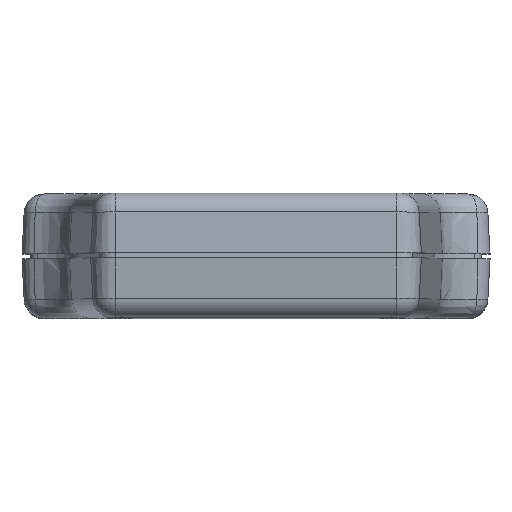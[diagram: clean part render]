
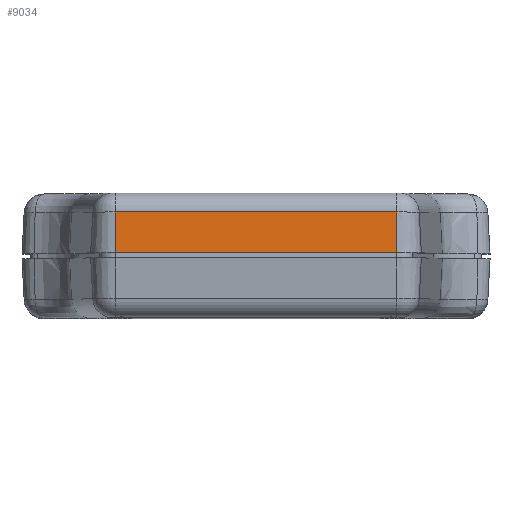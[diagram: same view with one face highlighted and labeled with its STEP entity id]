
A CAD part, top view. The second image highlights one B-rep face of the part: STEP entity #9034.
In plain terms, the highlighted planar face has unit normal (0, 0.052, 0.999).
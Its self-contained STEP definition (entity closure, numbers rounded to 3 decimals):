
#595 = EDGE_LOOP ( 'NONE', ( #5916, #8583, #2544, #14584 ) ) ;
#602 = CARTESIAN_POINT ( 'NONE',  ( 28.255, 0., 79.85 ) ) ;
#763 = LINE ( 'NONE', #7497, #2076 ) ;
#985 = DIRECTION ( 'NONE',  ( 0., -0.999, 0.052 ) ) ;
#987 = VECTOR ( 'NONE', #9965, 1000. ) ;
#1826 = AXIS2_PLACEMENT_3D ( 'NONE', #14559, #5601, #4338 ) ;
#2018 = DIRECTION ( 'NONE',  ( -1., 0., 0. ) ) ;
#2076 = VECTOR ( 'NONE', #985, 1000. ) ;
#2291 = VERTEX_POINT ( 'NONE', #3939 ) ;
#2544 = ORIENTED_EDGE ( 'NONE', *, *, #8074, .T. ) ;
#2930 = LINE ( 'NONE', #5398, #7339 ) ;
#3286 = VECTOR ( 'NONE', #7270, 1000. ) ;
#3939 = CARTESIAN_POINT ( 'NONE',  ( -28.255, 8.209, 79.42 ) ) ;
#4258 = CARTESIAN_POINT ( 'NONE',  ( 28.255, 8.209, 79.42 ) ) ;
#4338 = DIRECTION ( 'NONE',  ( 0., -0.999, 0.052 ) ) ;
#4345 = EDGE_CURVE ( 'NONE', #6752, #6822, #5403, .T. ) ;
#5398 = CARTESIAN_POINT ( 'NONE',  ( 28.255, 8.209, 79.42 ) ) ;
#5403 = LINE ( 'NONE', #602, #987 ) ;
#5601 = DIRECTION ( 'NONE',  ( 0., 0.052, 0.999 ) ) ;
#5916 = ORIENTED_EDGE ( 'NONE', *, *, #4345, .F. ) ;
#6024 = CARTESIAN_POINT ( 'NONE',  ( 28.255, 0., 79.85 ) ) ;
#6247 = EDGE_CURVE ( 'NONE', #12131, #6822, #12143, .T. ) ;
#6752 = VERTEX_POINT ( 'NONE', #4258 ) ;
#6822 = VERTEX_POINT ( 'NONE', #6024 ) ;
#7270 = DIRECTION ( 'NONE',  ( 1., 0., 0. ) ) ;
#7339 = VECTOR ( 'NONE', #2018, 1000. ) ;
#7497 = CARTESIAN_POINT ( 'NONE',  ( -28.255, 0., 79.85 ) ) ;
#8074 = EDGE_CURVE ( 'NONE', #2291, #12131, #763, .T. ) ;
#8413 = EDGE_CURVE ( 'NONE', #6752, #2291, #2930, .T. ) ;
#8583 = ORIENTED_EDGE ( 'NONE', *, *, #8413, .T. ) ;
#8729 = CARTESIAN_POINT ( 'NONE',  ( -28.255, 0., 79.85 ) ) ;
#9034 = ADVANCED_FACE ( 'NONE', ( #10316 ), #12555, .T. ) ;
#9965 = DIRECTION ( 'NONE',  ( 0., -0.999, 0.052 ) ) ;
#10316 = FACE_OUTER_BOUND ( 'NONE', #595, .T. ) ;
#12131 = VERTEX_POINT ( 'NONE', #8729 ) ;
#12143 = LINE ( 'NONE', #12959, #3286 ) ;
#12555 = PLANE ( 'NONE',  #1826 ) ;
#12959 = CARTESIAN_POINT ( 'NONE',  ( 28.255, 0., 79.85 ) ) ;
#14559 = CARTESIAN_POINT ( 'NONE',  ( 28.255, 0., 79.85 ) ) ;
#14584 = ORIENTED_EDGE ( 'NONE', *, *, #6247, .T. ) ;
